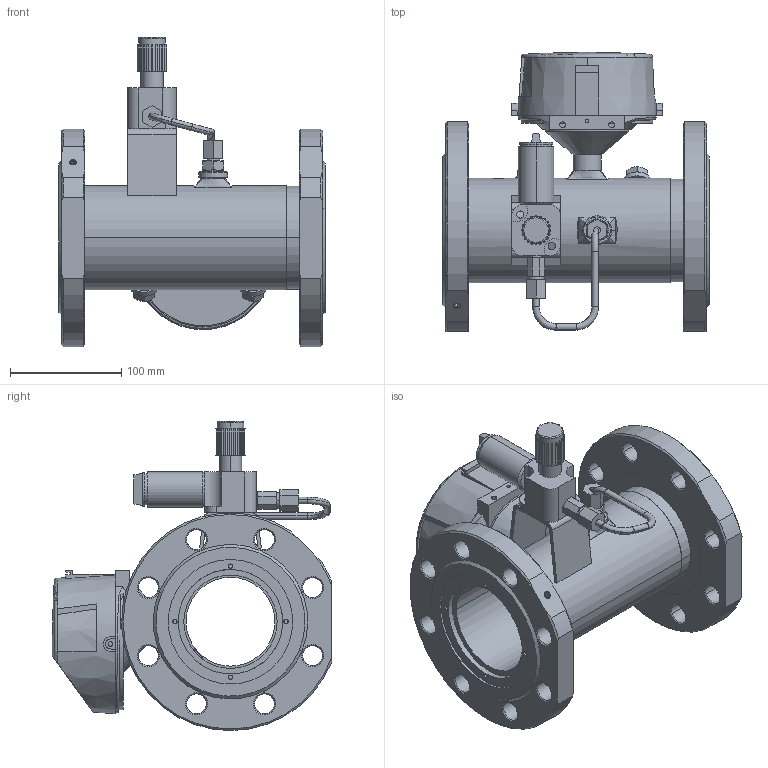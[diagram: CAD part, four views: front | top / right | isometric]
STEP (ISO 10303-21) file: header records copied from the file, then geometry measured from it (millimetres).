
FILE_DESCRIPTION((''),'2;1');
FILE_NAME('12345_ASM','2020-11-24T',('solovki'),(''),'CREO PARAMETRIC BY PTC INC, 2018360','CREO PARAMETRIC BY PTC INC, 2018360','');
FILE_SCHEMA(('AUTOMOTIVE_DESIGN { 1 0 10303 214 1 1 1 1 }'));
Length unit declared in the file: millimetre
Products named in the file (17): 002_AF3; 003_AF1; 004_AF1; 005_AF1; 006_AF1; 007_AF1; 007_AF0; 008; 001_AF1_ASM; 009; 010; 011; 012; 013; 014; 015; 12345_ASM
Assembly tree (18 placements, depth 3):
  12345_ASM
    001_AF1_ASM
      002_AF3
      003_AF1
      004_AF1
      005_AF1
      006_AF1
      007_AF1
      007_AF0
      008
    009
    010
    011
    012
    013  x2
    014  x2
    015
Bounding box: 240 x 251.24 x 278.28 mm (x, y, z)
Volume: 2140285.7 mm3; surface area: 446224.2 mm2
Topology: 17 solids, 36 shells, 817 faces, 2000 edges, 1248 vertices
Faces by surface type: cylinder 322, plane 253, cone 179, bspline 26, sphere 22, torus 15
Entity records: 35341 total; most frequent: CARTESIAN_POINT 6605, DIRECTION 4062, ORIENTED_EDGE 3606, PRESENTATION_STYLE_ASSIGNMENT 2389, STYLED_ITEM 2389, CURVE_STYLE 1858, EDGE_CURVE 1858, AXIS2_PLACEMENT_3D 1596
